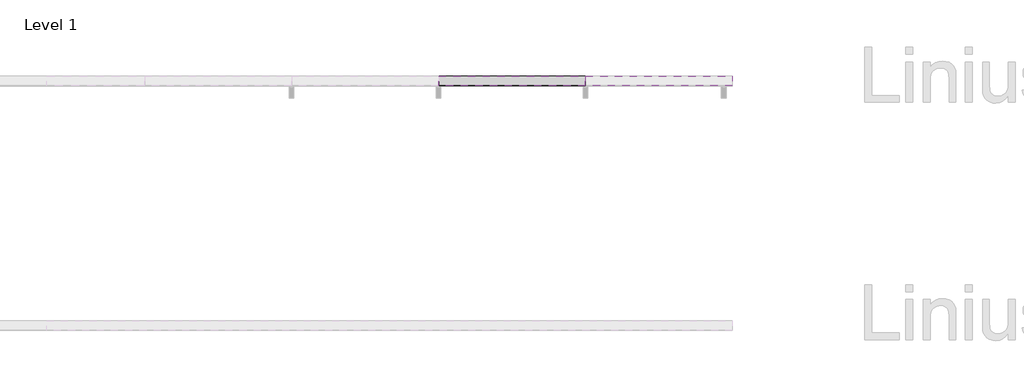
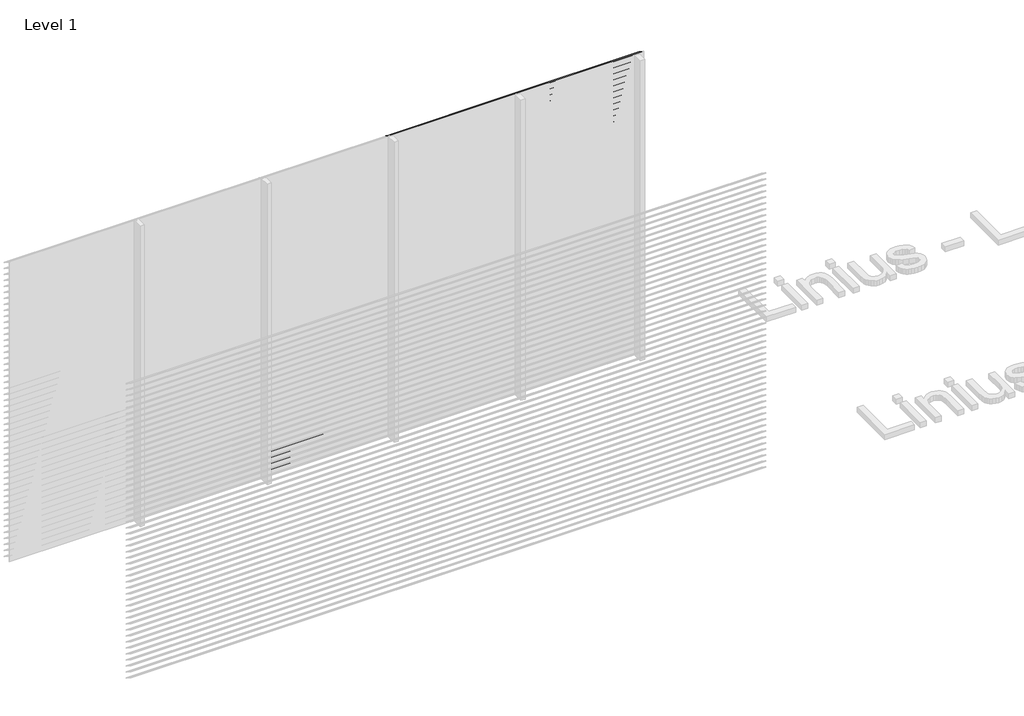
# One storey, part 28 of 153: 84 proxies.
"""IFC4 building model written with IfcOpenShell, lengths in millimetres."""

from ifc_helpers import new_model, si_unit, frame, origin, place, context, project, spatial, polyline, outline, extrude, element, save

model = new_model("IFC4")

# Units and contexts
model_context = context("Model", 3, world=origin())
ifc_project = project(units=[si_unit("LENGTHUNIT", "METRE", prefix="MILLI")], contexts=[model_context])

# Site, building, storey
site = spatial("IfcSite", under=ifc_project)
building = spatial("IfcBuilding", under=site)
storey = spatial("IfcBuildingStorey", under=building, Name="Level 1", Elevation=0.0)

# Proxies
placement = place(None, origin())
element("IfcBuildingElementProxy", 1, Name="Wall Sweeps", at=placement, inside=storey, context=model_context, shape_type="SweptSolid", body=[
    extrude(outline(polyline([(29061.0540136, 186.0), (29061.0540136, 180.0), (29059.8040136, 180.7216933), (29059.8040136, 185.2538091), (28983.0540136, 233.9915103), (28983.0540136, 240.0), (28984.3040136, 240.0), (28984.3040136, 234.7377012), (29061.0540136, 186.0)])), frame((2866.6208097, 0.0, 0.0), z_axis=(1.0, 0.0, 0.0), x_axis=(0.0, 1.0, 0.0)), (0.0, 0.0, 1.0), 1199.9999999),
])
element("IfcBuildingElementProxy", 2, Name="Wall Sweeps", at=placement, inside=storey, context=model_context, shape_type="SweptSolid", body=[
    extrude(outline(polyline([(29061.0540136, 126.0), (29061.0540136, 120.0), (29059.8040136, 120.7216933), (29059.8040136, 125.2538091), (28983.0540136, 173.9915103), (28983.0540136, 180.0), (28984.3040136, 180.0), (28984.3040136, 174.7377012), (29061.0540136, 126.0)])), frame((2866.6208097, 0.0, 0.0), z_axis=(1.0, 0.0, 0.0), x_axis=(0.0, 1.0, 0.0)), (0.0, 0.0, 1.0), 1199.9999999),
])
element("IfcBuildingElementProxy", 3, Name="Wall Sweeps", at=placement, inside=storey, context=model_context, shape_type="SweptSolid", body=[
    extrude(outline(polyline([(29061.0540136, 66.0), (29061.0540136, 60.0), (29059.8040136, 60.7216933), (29059.8040136, 65.2538091), (28983.0540136, 113.9915103), (28983.0540136, 120.0), (28984.3040136, 120.0), (28984.3040136, 114.7377012), (29061.0540136, 66.0)])), frame((2866.6208097, 0.0, 0.0), z_axis=(1.0, 0.0, 0.0), x_axis=(0.0, 1.0, 0.0)), (0.0, 0.0, 1.0), 1199.9999999),
])
element("IfcBuildingElementProxy", 4, Name="Wall Sweeps", at=placement, inside=storey, context=model_context, shape_type="SweptSolid", body=[
    extrude(outline(polyline([(29061.0540136, 6.0), (29061.0540136, 0.0), (29059.8040136, 0.7216933), (29059.8040136, 5.2538091), (28983.0540136, 53.9915103), (28983.0540136, 60.0), (28984.3040136, 60.0), (28984.3040136, 54.7377012), (29061.0540136, 6.0)])), frame((2866.6208097, 0.0, 0.0), z_axis=(1.0, 0.0, 0.0), x_axis=(0.0, 1.0, 0.0)), (0.0, 0.0, 1.0), 1199.9999999),
])
element("IfcBuildingElementProxy", 5, Name="Wall Sweeps", at=placement, inside=storey, context=model_context, shape_type="SweptSolid", body=[
    extrude(outline(polyline([(29061.0540136, 2946.0), (29061.0540136, 2940.0), (29059.8040136, 2940.7216933), (29059.8040136, 2945.2538091), (28983.0540136, 2993.9915103), (28983.0540136, 3000.0), (28984.3040136, 3000.0), (28984.3040136, 2994.7377012), (29061.0540136, 2946.0)])), frame((4066.6208096, 0.0, 0.0), z_axis=(1.0, 0.0, 0.0), x_axis=(0.0, 1.0, 0.0)), (0.0, 0.0, 1.0), 1199.9999999),
])
element("IfcBuildingElementProxy", 6, Name="Wall Sweeps", at=placement, inside=storey, context=model_context, shape_type="SweptSolid", body=[
    extrude(outline(polyline([(29061.0540136, 2886.0), (29061.0540136, 2880.0), (29059.8040136, 2880.7216933), (29059.8040136, 2885.2538091), (28983.0540136, 2933.9915103), (28983.0540136, 2940.0), (28984.3040136, 2940.0), (28984.3040136, 2934.7377012), (29061.0540136, 2886.0)])), frame((4066.6208096, 0.0, 0.0), z_axis=(1.0, 0.0, 0.0), x_axis=(0.0, 1.0, 0.0)), (0.0, 0.0, 1.0), 1199.9999999),
])
element("IfcBuildingElementProxy", 7, Name="Wall Sweeps", at=placement, inside=storey, context=model_context, shape_type="SweptSolid", body=[
    extrude(outline(polyline([(29061.0540136, 2826.0), (29061.0540136, 2820.0), (29059.8040136, 2820.7216933), (29059.8040136, 2825.2538091), (28983.0540136, 2873.9915103), (28983.0540136, 2880.0), (28984.3040136, 2880.0), (28984.3040136, 2874.7377012), (29061.0540136, 2826.0)])), frame((4066.6208096, 0.0, 0.0), z_axis=(1.0, 0.0, 0.0), x_axis=(0.0, 1.0, 0.0)), (0.0, 0.0, 1.0), 1199.9999999),
])
element("IfcBuildingElementProxy", 8, Name="Wall Sweeps", at=placement, inside=storey, context=model_context, shape_type="SweptSolid", body=[
    extrude(outline(polyline([(29061.0540136, 2766.0), (29061.0540136, 2760.0), (29059.8040136, 2760.7216933), (29059.8040136, 2765.2538091), (28983.0540136, 2813.9915103), (28983.0540136, 2820.0), (28984.3040136, 2820.0), (28984.3040136, 2814.7377012), (29061.0540136, 2766.0)])), frame((4066.6208096, 0.0, 0.0), z_axis=(1.0, 0.0, 0.0), x_axis=(0.0, 1.0, 0.0)), (0.0, 0.0, 1.0), 1199.9999999),
])
element("IfcBuildingElementProxy", 9, Name="Wall Sweeps", at=placement, inside=storey, context=model_context, shape_type="SweptSolid", body=[
    extrude(outline(polyline([(29061.0540136, 2706.0), (29061.0540136, 2700.0), (29059.8040136, 2700.7216933), (29059.8040136, 2705.2538091), (28983.0540136, 2753.9915103), (28983.0540136, 2760.0), (28984.3040136, 2760.0), (28984.3040136, 2754.7377012), (29061.0540136, 2706.0)])), frame((4066.6208096, 0.0, 0.0), z_axis=(1.0, 0.0, 0.0), x_axis=(0.0, 1.0, 0.0)), (0.0, 0.0, 1.0), 1199.9999999),
])
element("IfcBuildingElementProxy", 10, Name="Wall Sweeps", at=placement, inside=storey, context=model_context, shape_type="SweptSolid", body=[
    extrude(outline(polyline([(29061.0540136, 2646.0), (29061.0540136, 2640.0), (29059.8040136, 2640.7216933), (29059.8040136, 2645.2538091), (28983.0540136, 2693.9915103), (28983.0540136, 2700.0), (28984.3040136, 2700.0), (28984.3040136, 2694.7377012), (29061.0540136, 2646.0)])), frame((4066.6208096, 0.0, 0.0), z_axis=(1.0, 0.0, 0.0), x_axis=(0.0, 1.0, 0.0)), (0.0, 0.0, 1.0), 1199.9999999),
])
element("IfcBuildingElementProxy", 11, Name="Wall Sweeps", at=placement, inside=storey, context=model_context, shape_type="SweptSolid", body=[
    extrude(outline(polyline([(29061.0540136, 2586.0), (29061.0540136, 2580.0), (29059.8040136, 2580.7216933), (29059.8040136, 2585.2538091), (28983.0540136, 2633.9915103), (28983.0540136, 2640.0), (28984.3040136, 2640.0), (28984.3040136, 2634.7377012), (29061.0540136, 2586.0)])), frame((4066.6208096, 0.0, 0.0), z_axis=(1.0, 0.0, 0.0), x_axis=(0.0, 1.0, 0.0)), (0.0, 0.0, 1.0), 1199.9999999),
])
element("IfcBuildingElementProxy", 12, Name="Wall Sweeps", at=placement, inside=storey, context=model_context, shape_type="SweptSolid", body=[
    extrude(outline(polyline([(29061.0540136, 2526.0), (29061.0540136, 2520.0), (29059.8040136, 2520.7216933), (29059.8040136, 2525.2538091), (28983.0540136, 2573.9915103), (28983.0540136, 2580.0), (28984.3040136, 2580.0), (28984.3040136, 2574.7377012), (29061.0540136, 2526.0)])), frame((4066.6208096, 0.0, 0.0), z_axis=(1.0, 0.0, 0.0), x_axis=(0.0, 1.0, 0.0)), (0.0, 0.0, 1.0), 1199.9999999),
])
element("IfcBuildingElementProxy", 13, Name="Wall Sweeps", at=placement, inside=storey, context=model_context, shape_type="SweptSolid", body=[
    extrude(outline(polyline([(29061.0540136, 2466.0), (29061.0540136, 2460.0), (29059.8040136, 2460.7216933), (29059.8040136, 2465.2538091), (28983.0540136, 2513.9915103), (28983.0540136, 2520.0), (28984.3040136, 2520.0), (28984.3040136, 2514.7377012), (29061.0540136, 2466.0)])), frame((4066.6208096, 0.0, 0.0), z_axis=(1.0, 0.0, 0.0), x_axis=(0.0, 1.0, 0.0)), (0.0, 0.0, 1.0), 1199.9999999),
])
element("IfcBuildingElementProxy", 14, Name="Wall Sweeps", at=placement, inside=storey, context=model_context, shape_type="SweptSolid", body=[
    extrude(outline(polyline([(29061.0540136, 2406.0), (29061.0540136, 2400.0), (29059.8040136, 2400.7216933), (29059.8040136, 2405.2538091), (28983.0540136, 2453.9915103), (28983.0540136, 2460.0), (28984.3040136, 2460.0), (28984.3040136, 2454.7377012), (29061.0540136, 2406.0)])), frame((4066.6208096, 0.0, 0.0), z_axis=(1.0, 0.0, 0.0), x_axis=(0.0, 1.0, 0.0)), (0.0, 0.0, 1.0), 1199.9999999),
])
element("IfcBuildingElementProxy", 15, Name="Wall Sweeps", at=placement, inside=storey, context=model_context, shape_type="SweptSolid", body=[
    extrude(outline(polyline([(29061.0540136, 2346.0), (29061.0540136, 2340.0), (29059.8040136, 2340.7216933), (29059.8040136, 2345.2538091), (28983.0540136, 2393.9915103), (28983.0540136, 2400.0), (28984.3040136, 2400.0), (28984.3040136, 2394.7377012), (29061.0540136, 2346.0)])), frame((4066.6208096, 0.0, 0.0), z_axis=(1.0, 0.0, 0.0), x_axis=(0.0, 1.0, 0.0)), (0.0, 0.0, 1.0), 1199.9999999),
])
element("IfcBuildingElementProxy", 16, Name="Wall Sweeps", at=placement, inside=storey, context=model_context, shape_type="SweptSolid", body=[
    extrude(outline(polyline([(29061.0540136, 2286.0), (29061.0540136, 2280.0), (29059.8040136, 2280.7216933), (29059.8040136, 2285.2538091), (28983.0540136, 2333.9915103), (28983.0540136, 2340.0), (28984.3040136, 2340.0), (28984.3040136, 2334.7377012), (29061.0540136, 2286.0)])), frame((4066.6208096, 0.0, 0.0), z_axis=(1.0, 0.0, 0.0), x_axis=(0.0, 1.0, 0.0)), (0.0, 0.0, 1.0), 1199.9999999),
])
element("IfcBuildingElementProxy", 17, Name="Wall Sweeps", at=placement, inside=storey, context=model_context, shape_type="SweptSolid", body=[
    extrude(outline(polyline([(29061.0540136, 2226.0), (29061.0540136, 2220.0), (29059.8040136, 2220.7216933), (29059.8040136, 2225.2538091), (28983.0540136, 2273.9915103), (28983.0540136, 2280.0), (28984.3040136, 2280.0), (28984.3040136, 2274.7377012), (29061.0540136, 2226.0)])), frame((4066.6208096, 0.0, 0.0), z_axis=(1.0, 0.0, 0.0), x_axis=(0.0, 1.0, 0.0)), (0.0, 0.0, 1.0), 1199.9999999),
])
element("IfcBuildingElementProxy", 18, Name="Wall Sweeps", at=placement, inside=storey, context=model_context, shape_type="SweptSolid", body=[
    extrude(outline(polyline([(29061.0540136, 2166.0), (29061.0540136, 2160.0), (29059.8040136, 2160.7216933), (29059.8040136, 2165.2538091), (28983.0540136, 2213.9915103), (28983.0540136, 2220.0), (28984.3040136, 2220.0), (28984.3040136, 2214.7377012), (29061.0540136, 2166.0)])), frame((4066.6208096, 0.0, 0.0), z_axis=(1.0, 0.0, 0.0), x_axis=(0.0, 1.0, 0.0)), (0.0, 0.0, 1.0), 1199.9999999),
])
element("IfcBuildingElementProxy", 19, Name="Wall Sweeps", at=placement, inside=storey, context=model_context, shape_type="SweptSolid", body=[
    extrude(outline(polyline([(29061.0540136, 2106.0), (29061.0540136, 2100.0), (29059.8040136, 2100.7216933), (29059.8040136, 2105.2538091), (28983.0540136, 2153.9915103), (28983.0540136, 2160.0), (28984.3040136, 2160.0), (28984.3040136, 2154.7377012), (29061.0540136, 2106.0)])), frame((4066.6208096, 0.0, 0.0), z_axis=(1.0, 0.0, 0.0), x_axis=(0.0, 1.0, 0.0)), (0.0, 0.0, 1.0), 1199.9999999),
])
element("IfcBuildingElementProxy", 20, Name="Wall Sweeps", at=placement, inside=storey, context=model_context, shape_type="SweptSolid", body=[
    extrude(outline(polyline([(29061.0540136, 2046.0), (29061.0540136, 2040.0), (29059.8040136, 2040.7216933), (29059.8040136, 2045.2538091), (28983.0540136, 2093.9915103), (28983.0540136, 2100.0), (28984.3040136, 2100.0), (28984.3040136, 2094.7377012), (29061.0540136, 2046.0)])), frame((4066.6208096, 0.0, 0.0), z_axis=(1.0, 0.0, 0.0), x_axis=(0.0, 1.0, 0.0)), (0.0, 0.0, 1.0), 1199.9999999),
])
element("IfcBuildingElementProxy", 21, Name="Wall Sweeps", at=placement, inside=storey, context=model_context, shape_type="SweptSolid", body=[
    extrude(outline(polyline([(29061.0540136, 1986.0), (29061.0540136, 1980.0), (29059.8040136, 1980.7216933), (29059.8040136, 1985.2538091), (28983.0540136, 2033.9915103), (28983.0540136, 2040.0), (28984.3040136, 2040.0), (28984.3040136, 2034.7377012), (29061.0540136, 1986.0)])), frame((4066.6208096, 0.0, 0.0), z_axis=(1.0, 0.0, 0.0), x_axis=(0.0, 1.0, 0.0)), (0.0, 0.0, 1.0), 1199.9999999),
])
element("IfcBuildingElementProxy", 22, Name="Wall Sweeps", at=placement, inside=storey, context=model_context, shape_type="SweptSolid", body=[
    extrude(outline(polyline([(29061.0540136, 1926.0), (29061.0540136, 1920.0), (29059.8040136, 1920.7216933), (29059.8040136, 1925.2538091), (28983.0540136, 1973.9915103), (28983.0540136, 1980.0), (28984.3040136, 1980.0), (28984.3040136, 1974.7377012), (29061.0540136, 1926.0)])), frame((4066.6208096, 0.0, 0.0), z_axis=(1.0, 0.0, 0.0), x_axis=(0.0, 1.0, 0.0)), (0.0, 0.0, 1.0), 1199.9999999),
])
element("IfcBuildingElementProxy", 23, Name="Wall Sweeps", at=placement, inside=storey, context=model_context, shape_type="SweptSolid", body=[
    extrude(outline(polyline([(29061.0540136, 1866.0), (29061.0540136, 1860.0), (29059.8040136, 1860.7216933), (29059.8040136, 1865.2538091), (28983.0540136, 1913.9915103), (28983.0540136, 1920.0), (28984.3040136, 1920.0), (28984.3040136, 1914.7377012), (29061.0540136, 1866.0)])), frame((4066.6208096, 0.0, 0.0), z_axis=(1.0, 0.0, 0.0), x_axis=(0.0, 1.0, 0.0)), (0.0, 0.0, 1.0), 1199.9999999),
])
element("IfcBuildingElementProxy", 24, Name="Wall Sweeps", at=placement, inside=storey, context=model_context, shape_type="SweptSolid", body=[
    extrude(outline(polyline([(29061.0540136, 1806.0), (29061.0540136, 1800.0), (29059.8040136, 1800.7216933), (29059.8040136, 1805.2538091), (28983.0540136, 1853.9915103), (28983.0540136, 1860.0), (28984.3040136, 1860.0), (28984.3040136, 1854.7377012), (29061.0540136, 1806.0)])), frame((4066.6208096, 0.0, 0.0), z_axis=(1.0, 0.0, 0.0), x_axis=(0.0, 1.0, 0.0)), (0.0, 0.0, 1.0), 1199.9999999),
])
element("IfcBuildingElementProxy", 25, Name="Wall Sweeps", at=placement, inside=storey, context=model_context, shape_type="SweptSolid", body=[
    extrude(outline(polyline([(29061.0540136, 1746.0), (29061.0540136, 1740.0), (29059.8040136, 1740.7216933), (29059.8040136, 1745.2538091), (28983.0540136, 1793.9915103), (28983.0540136, 1800.0), (28984.3040136, 1800.0), (28984.3040136, 1794.7377012), (29061.0540136, 1746.0)])), frame((4066.6208096, 0.0, 0.0), z_axis=(1.0, 0.0, 0.0), x_axis=(0.0, 1.0, 0.0)), (0.0, 0.0, 1.0), 1199.9999999),
])
element("IfcBuildingElementProxy", 26, Name="Wall Sweeps", at=placement, inside=storey, context=model_context, shape_type="SweptSolid", body=[
    extrude(outline(polyline([(29061.0540136, 1686.0), (29061.0540136, 1680.0), (29059.8040136, 1680.7216933), (29059.8040136, 1685.2538091), (28983.0540136, 1733.9915103), (28983.0540136, 1740.0), (28984.3040136, 1740.0), (28984.3040136, 1734.7377012), (29061.0540136, 1686.0)])), frame((4066.6208096, 0.0, 0.0), z_axis=(1.0, 0.0, 0.0), x_axis=(0.0, 1.0, 0.0)), (0.0, 0.0, 1.0), 1199.9999999),
])
element("IfcBuildingElementProxy", 27, Name="Wall Sweeps", at=placement, inside=storey, context=model_context, shape_type="SweptSolid", body=[
    extrude(outline(polyline([(29061.0540136, 1626.0), (29061.0540136, 1620.0), (29059.8040136, 1620.7216933), (29059.8040136, 1625.2538091), (28983.0540136, 1673.9915103), (28983.0540136, 1680.0), (28984.3040136, 1680.0), (28984.3040136, 1674.7377012), (29061.0540136, 1626.0)])), frame((4066.6208096, 0.0, 0.0), z_axis=(1.0, 0.0, 0.0), x_axis=(0.0, 1.0, 0.0)), (0.0, 0.0, 1.0), 1199.9999999),
])
element("IfcBuildingElementProxy", 28, Name="Wall Sweeps", at=placement, inside=storey, context=model_context, shape_type="SweptSolid", body=[
    extrude(outline(polyline([(29061.0540136, 1566.0), (29061.0540136, 1560.0), (29059.8040136, 1560.7216933), (29059.8040136, 1565.2538091), (28983.0540136, 1613.9915103), (28983.0540136, 1620.0), (28984.3040136, 1620.0), (28984.3040136, 1614.7377012), (29061.0540136, 1566.0)])), frame((4066.6208096, 0.0, 0.0), z_axis=(1.0, 0.0, 0.0), x_axis=(0.0, 1.0, 0.0)), (0.0, 0.0, 1.0), 1199.9999999),
])
element("IfcBuildingElementProxy", 29, Name="Wall Sweeps", at=placement, inside=storey, context=model_context, shape_type="SweptSolid", body=[
    extrude(outline(polyline([(29061.0540136, 1506.0), (29061.0540136, 1500.0), (29059.8040136, 1500.7216933), (29059.8040136, 1505.2538091), (28983.0540136, 1553.9915103), (28983.0540136, 1560.0), (28984.3040136, 1560.0), (28984.3040136, 1554.7377012), (29061.0540136, 1506.0)])), frame((4066.6208096, 0.0, 0.0), z_axis=(1.0, 0.0, 0.0), x_axis=(0.0, 1.0, 0.0)), (0.0, 0.0, 1.0), 1199.9999999),
])
element("IfcBuildingElementProxy", 30, Name="Wall Sweeps", at=placement, inside=storey, context=model_context, shape_type="SweptSolid", body=[
    extrude(outline(polyline([(29061.0540136, 1446.0), (29061.0540136, 1440.0), (29059.8040136, 1440.7216933), (29059.8040136, 1445.2538091), (28983.0540136, 1493.9915103), (28983.0540136, 1500.0), (28984.3040136, 1500.0), (28984.3040136, 1494.7377012), (29061.0540136, 1446.0)])), frame((4066.6208096, 0.0, 0.0), z_axis=(1.0, 0.0, 0.0), x_axis=(0.0, 1.0, 0.0)), (0.0, 0.0, 1.0), 1199.9999999),
])
element("IfcBuildingElementProxy", 31, Name="Wall Sweeps", at=placement, inside=storey, context=model_context, shape_type="SweptSolid", body=[
    extrude(outline(polyline([(29061.0540136, 1386.0), (29061.0540136, 1380.0), (29059.8040136, 1380.7216933), (29059.8040136, 1385.2538091), (28983.0540136, 1433.9915103), (28983.0540136, 1440.0), (28984.3040136, 1440.0), (28984.3040136, 1434.7377012), (29061.0540136, 1386.0)])), frame((4066.6208096, 0.0, 0.0), z_axis=(1.0, 0.0, 0.0), x_axis=(0.0, 1.0, 0.0)), (0.0, 0.0, 1.0), 1199.9999999),
])
element("IfcBuildingElementProxy", 32, Name="Wall Sweeps", at=placement, inside=storey, context=model_context, shape_type="SweptSolid", body=[
    extrude(outline(polyline([(29061.0540136, 1326.0), (29061.0540136, 1320.0), (29059.8040136, 1320.7216933), (29059.8040136, 1325.2538091), (28983.0540136, 1373.9915103), (28983.0540136, 1380.0), (28984.3040136, 1380.0), (28984.3040136, 1374.7377012), (29061.0540136, 1326.0)])), frame((4066.6208096, 0.0, 0.0), z_axis=(1.0, 0.0, 0.0), x_axis=(0.0, 1.0, 0.0)), (0.0, 0.0, 1.0), 1199.9999999),
])
element("IfcBuildingElementProxy", 33, Name="Wall Sweeps", at=placement, inside=storey, context=model_context, shape_type="SweptSolid", body=[
    extrude(outline(polyline([(29061.0540136, 1266.0), (29061.0540136, 1260.0), (29059.8040136, 1260.7216933), (29059.8040136, 1265.2538091), (28983.0540136, 1313.9915103), (28983.0540136, 1320.0), (28984.3040136, 1320.0), (28984.3040136, 1314.7377012), (29061.0540136, 1266.0)])), frame((4066.6208096, 0.0, 0.0), z_axis=(1.0, 0.0, 0.0), x_axis=(0.0, 1.0, 0.0)), (0.0, 0.0, 1.0), 1199.9999999),
])
element("IfcBuildingElementProxy", 34, Name="Wall Sweeps", at=placement, inside=storey, context=model_context, shape_type="SweptSolid", body=[
    extrude(outline(polyline([(29061.0540136, 1206.0), (29061.0540136, 1200.0), (29059.8040136, 1200.7216933), (29059.8040136, 1205.2538091), (28983.0540136, 1253.9915103), (28983.0540136, 1260.0), (28984.3040136, 1260.0), (28984.3040136, 1254.7377012), (29061.0540136, 1206.0)])), frame((4066.6208096, 0.0, 0.0), z_axis=(1.0, 0.0, 0.0), x_axis=(0.0, 1.0, 0.0)), (0.0, 0.0, 1.0), 1199.9999999),
])
element("IfcBuildingElementProxy", 35, Name="Wall Sweeps", at=placement, inside=storey, context=model_context, shape_type="SweptSolid", body=[
    extrude(outline(polyline([(29061.0540136, 1146.0), (29061.0540136, 1140.0), (29059.8040136, 1140.7216933), (29059.8040136, 1145.2538091), (28983.0540136, 1193.9915103), (28983.0540136, 1200.0), (28984.3040136, 1200.0), (28984.3040136, 1194.7377012), (29061.0540136, 1146.0)])), frame((4066.6208096, 0.0, 0.0), z_axis=(1.0, 0.0, 0.0), x_axis=(0.0, 1.0, 0.0)), (0.0, 0.0, 1.0), 1199.9999999),
])
element("IfcBuildingElementProxy", 36, Name="Wall Sweeps", at=placement, inside=storey, context=model_context, shape_type="SweptSolid", body=[
    extrude(outline(polyline([(29061.0540136, 1086.0), (29061.0540136, 1080.0), (29059.8040136, 1080.7216933), (29059.8040136, 1085.2538091), (28983.0540136, 1133.9915103), (28983.0540136, 1140.0), (28984.3040136, 1140.0), (28984.3040136, 1134.7377012), (29061.0540136, 1086.0)])), frame((4066.6208096, 0.0, 0.0), z_axis=(1.0, 0.0, 0.0), x_axis=(0.0, 1.0, 0.0)), (0.0, 0.0, 1.0), 1199.9999999),
])
element("IfcBuildingElementProxy", 37, Name="Wall Sweeps", at=placement, inside=storey, context=model_context, shape_type="SweptSolid", body=[
    extrude(outline(polyline([(29061.0540136, 1026.0), (29061.0540136, 1020.0), (29059.8040136, 1020.7216933), (29059.8040136, 1025.2538091), (28983.0540136, 1073.9915103), (28983.0540136, 1080.0), (28984.3040136, 1080.0), (28984.3040136, 1074.7377012), (29061.0540136, 1026.0)])), frame((4066.6208096, 0.0, 0.0), z_axis=(1.0, 0.0, 0.0), x_axis=(0.0, 1.0, 0.0)), (0.0, 0.0, 1.0), 1199.9999999),
])
element("IfcBuildingElementProxy", 38, Name="Wall Sweeps", at=placement, inside=storey, context=model_context, shape_type="SweptSolid", body=[
    extrude(outline(polyline([(29061.0540136, 966.0), (29061.0540136, 960.0), (29059.8040136, 960.7216933), (29059.8040136, 965.2538091), (28983.0540136, 1013.9915103), (28983.0540136, 1020.0), (28984.3040136, 1020.0), (28984.3040136, 1014.7377012), (29061.0540136, 966.0)])), frame((4066.6208096, 0.0, 0.0), z_axis=(1.0, 0.0, 0.0), x_axis=(0.0, 1.0, 0.0)), (0.0, 0.0, 1.0), 1199.9999999),
])
element("IfcBuildingElementProxy", 39, Name="Wall Sweeps", at=placement, inside=storey, context=model_context, shape_type="SweptSolid", body=[
    extrude(outline(polyline([(29061.0540136, 906.0), (29061.0540136, 900.0), (29059.8040136, 900.7216933), (29059.8040136, 905.2538091), (28983.0540136, 953.9915103), (28983.0540136, 960.0), (28984.3040136, 960.0), (28984.3040136, 954.7377012), (29061.0540136, 906.0)])), frame((4066.6208096, 0.0, 0.0), z_axis=(1.0, 0.0, 0.0), x_axis=(0.0, 1.0, 0.0)), (0.0, 0.0, 1.0), 1199.9999999),
])
element("IfcBuildingElementProxy", 40, Name="Wall Sweeps", at=placement, inside=storey, context=model_context, shape_type="SweptSolid", body=[
    extrude(outline(polyline([(29061.0540136, 846.0), (29061.0540136, 840.0), (29059.8040136, 840.7216933), (29059.8040136, 845.2538091), (28983.0540136, 893.9915103), (28983.0540136, 900.0), (28984.3040136, 900.0), (28984.3040136, 894.7377012), (29061.0540136, 846.0)])), frame((4066.6208096, 0.0, 0.0), z_axis=(1.0, 0.0, 0.0), x_axis=(0.0, 1.0, 0.0)), (0.0, 0.0, 1.0), 1199.9999999),
])
element("IfcBuildingElementProxy", 41, Name="Wall Sweeps", at=placement, inside=storey, context=model_context, shape_type="SweptSolid", body=[
    extrude(outline(polyline([(29061.0540136, 786.0), (29061.0540136, 780.0), (29059.8040136, 780.7216933), (29059.8040136, 785.2538091), (28983.0540136, 833.9915103), (28983.0540136, 840.0), (28984.3040136, 840.0), (28984.3040136, 834.7377012), (29061.0540136, 786.0)])), frame((4066.6208096, 0.0, 0.0), z_axis=(1.0, 0.0, 0.0), x_axis=(0.0, 1.0, 0.0)), (0.0, 0.0, 1.0), 1199.9999999),
])
element("IfcBuildingElementProxy", 42, Name="Wall Sweeps", at=placement, inside=storey, context=model_context, shape_type="SweptSolid", body=[
    extrude(outline(polyline([(29061.0540136, 726.0), (29061.0540136, 720.0), (29059.8040136, 720.7216933), (29059.8040136, 725.2538091), (28983.0540136, 773.9915103), (28983.0540136, 780.0), (28984.3040136, 780.0), (28984.3040136, 774.7377012), (29061.0540136, 726.0)])), frame((4066.6208096, 0.0, 0.0), z_axis=(1.0, 0.0, 0.0), x_axis=(0.0, 1.0, 0.0)), (0.0, 0.0, 1.0), 1199.9999999),
])
element("IfcBuildingElementProxy", 43, Name="Wall Sweeps", at=placement, inside=storey, context=model_context, shape_type="SweptSolid", body=[
    extrude(outline(polyline([(29061.0540136, 666.0), (29061.0540136, 660.0), (29059.8040136, 660.7216933), (29059.8040136, 665.2538091), (28983.0540136, 713.9915103), (28983.0540136, 720.0), (28984.3040136, 720.0), (28984.3040136, 714.7377012), (29061.0540136, 666.0)])), frame((4066.6208096, 0.0, 0.0), z_axis=(1.0, 0.0, 0.0), x_axis=(0.0, 1.0, 0.0)), (0.0, 0.0, 1.0), 1199.9999999),
])
element("IfcBuildingElementProxy", 44, Name="Wall Sweeps", at=placement, inside=storey, context=model_context, shape_type="SweptSolid", body=[
    extrude(outline(polyline([(29061.0540136, 606.0), (29061.0540136, 600.0), (29059.8040136, 600.7216933), (29059.8040136, 605.2538091), (28983.0540136, 653.9915103), (28983.0540136, 660.0), (28984.3040136, 660.0), (28984.3040136, 654.7377012), (29061.0540136, 606.0)])), frame((4066.6208096, 0.0, 0.0), z_axis=(1.0, 0.0, 0.0), x_axis=(0.0, 1.0, 0.0)), (0.0, 0.0, 1.0), 1199.9999999),
])
element("IfcBuildingElementProxy", 45, Name="Wall Sweeps", at=placement, inside=storey, context=model_context, shape_type="SweptSolid", body=[
    extrude(outline(polyline([(29061.0540136, 546.0), (29061.0540136, 540.0), (29059.8040136, 540.7216933), (29059.8040136, 545.2538091), (28983.0540136, 593.9915103), (28983.0540136, 600.0), (28984.3040136, 600.0), (28984.3040136, 594.7377012), (29061.0540136, 546.0)])), frame((4066.6208096, 0.0, 0.0), z_axis=(1.0, 0.0, 0.0), x_axis=(0.0, 1.0, 0.0)), (0.0, 0.0, 1.0), 1199.9999999),
])
element("IfcBuildingElementProxy", 46, Name="Wall Sweeps", at=placement, inside=storey, context=model_context, shape_type="SweptSolid", body=[
    extrude(outline(polyline([(29061.0540136, 486.0), (29061.0540136, 480.0), (29059.8040136, 480.7216933), (29059.8040136, 485.2538091), (28983.0540136, 533.9915103), (28983.0540136, 540.0), (28984.3040136, 540.0), (28984.3040136, 534.7377012), (29061.0540136, 486.0)])), frame((4066.6208096, 0.0, 0.0), z_axis=(1.0, 0.0, 0.0), x_axis=(0.0, 1.0, 0.0)), (0.0, 0.0, 1.0), 1199.9999999),
])
element("IfcBuildingElementProxy", 47, Name="Wall Sweeps", at=placement, inside=storey, context=model_context, shape_type="SweptSolid", body=[
    extrude(outline(polyline([(29061.0540136, 426.0), (29061.0540136, 420.0), (29059.8040136, 420.7216933), (29059.8040136, 425.2538091), (28983.0540136, 473.9915103), (28983.0540136, 480.0), (28984.3040136, 480.0), (28984.3040136, 474.7377012), (29061.0540136, 426.0)])), frame((4066.6208096, 0.0, 0.0), z_axis=(1.0, 0.0, 0.0), x_axis=(0.0, 1.0, 0.0)), (0.0, 0.0, 1.0), 1199.9999999),
])
element("IfcBuildingElementProxy", 48, Name="Wall Sweeps", at=placement, inside=storey, context=model_context, shape_type="SweptSolid", body=[
    extrude(outline(polyline([(29061.0540136, 366.0), (29061.0540136, 360.0), (29059.8040136, 360.7216933), (29059.8040136, 365.2538091), (28983.0540136, 413.9915103), (28983.0540136, 420.0), (28984.3040136, 420.0), (28984.3040136, 414.7377012), (29061.0540136, 366.0)])), frame((4066.6208096, 0.0, 0.0), z_axis=(1.0, 0.0, 0.0), x_axis=(0.0, 1.0, 0.0)), (0.0, 0.0, 1.0), 1199.9999999),
])
element("IfcBuildingElementProxy", 49, Name="Wall Sweeps", at=placement, inside=storey, context=model_context, shape_type="SweptSolid", body=[
    extrude(outline(polyline([(29061.0540136, 306.0), (29061.0540136, 300.0), (29059.8040136, 300.7216933), (29059.8040136, 305.2538091), (28983.0540136, 353.9915103), (28983.0540136, 360.0), (28984.3040136, 360.0), (28984.3040136, 354.7377012), (29061.0540136, 306.0)])), frame((4066.6208096, 0.0, 0.0), z_axis=(1.0, 0.0, 0.0), x_axis=(0.0, 1.0, 0.0)), (0.0, 0.0, 1.0), 1199.9999999),
])
element("IfcBuildingElementProxy", 50, Name="Wall Sweeps", at=placement, inside=storey, context=model_context, shape_type="SweptSolid", body=[
    extrude(outline(polyline([(29061.0540136, 246.0), (29061.0540136, 240.0), (29059.8040136, 240.7216933), (29059.8040136, 245.2538091), (28983.0540136, 293.9915103), (28983.0540136, 300.0), (28984.3040136, 300.0), (28984.3040136, 294.7377012), (29061.0540136, 246.0)])), frame((4066.6208096, 0.0, 0.0), z_axis=(1.0, 0.0, 0.0), x_axis=(0.0, 1.0, 0.0)), (0.0, 0.0, 1.0), 1199.9999999),
])
element("IfcBuildingElementProxy", 51, Name="Wall Sweeps", at=placement, inside=storey, context=model_context, shape_type="SweptSolid", body=[
    extrude(outline(polyline([(29061.0540136, 186.0), (29061.0540136, 180.0), (29059.8040136, 180.7216933), (29059.8040136, 185.2538091), (28983.0540136, 233.9915103), (28983.0540136, 240.0), (28984.3040136, 240.0), (28984.3040136, 234.7377012), (29061.0540136, 186.0)])), frame((4066.6208096, 0.0, 0.0), z_axis=(1.0, 0.0, 0.0), x_axis=(0.0, 1.0, 0.0)), (0.0, 0.0, 1.0), 1199.9999999),
])
element("IfcBuildingElementProxy", 52, Name="Wall Sweeps", at=placement, inside=storey, context=model_context, shape_type="SweptSolid", body=[
    extrude(outline(polyline([(29061.0540136, 126.0), (29061.0540136, 120.0), (29059.8040136, 120.7216933), (29059.8040136, 125.2538091), (28983.0540136, 173.9915103), (28983.0540136, 180.0), (28984.3040136, 180.0), (28984.3040136, 174.7377012), (29061.0540136, 126.0)])), frame((4066.6208096, 0.0, 0.0), z_axis=(1.0, 0.0, 0.0), x_axis=(0.0, 1.0, 0.0)), (0.0, 0.0, 1.0), 1199.9999999),
])
element("IfcBuildingElementProxy", 53, Name="Wall Sweeps", at=placement, inside=storey, context=model_context, shape_type="SweptSolid", body=[
    extrude(outline(polyline([(29061.0540136, 66.0), (29061.0540136, 60.0), (29059.8040136, 60.7216933), (29059.8040136, 65.2538091), (28983.0540136, 113.9915103), (28983.0540136, 120.0), (28984.3040136, 120.0), (28984.3040136, 114.7377012), (29061.0540136, 66.0)])), frame((4066.6208096, 0.0, 0.0), z_axis=(1.0, 0.0, 0.0), x_axis=(0.0, 1.0, 0.0)), (0.0, 0.0, 1.0), 1199.9999999),
])
element("IfcBuildingElementProxy", 54, Name="Wall Sweeps", at=placement, inside=storey, context=model_context, shape_type="SweptSolid", body=[
    extrude(outline(polyline([(29061.0540136, 6.0), (29061.0540136, 0.0), (29059.8040136, 0.7216933), (29059.8040136, 5.2538091), (28983.0540136, 53.9915103), (28983.0540136, 60.0), (28984.3040136, 60.0), (28984.3040136, 54.7377012), (29061.0540136, 6.0)])), frame((4066.6208096, 0.0, 0.0), z_axis=(1.0, 0.0, 0.0), x_axis=(0.0, 1.0, 0.0)), (0.0, 0.0, 1.0), 1199.9999999),
])
element("IfcBuildingElementProxy", 55, Name="Wall Sweeps", at=placement, inside=storey, context=model_context, shape_type="SweptSolid", body=[
    extrude(outline(polyline([(29061.0540136, 2946.0), (29061.0540136, 2940.0), (29059.8040136, 2940.7216933), (29059.8040136, 2945.2538091), (28983.0540136, 2993.9915103), (28983.0540136, 3000.0), (28984.3040136, 3000.0), (28984.3040136, 2994.7377012), (29061.0540136, 2946.0)])), frame((5266.6208095, 0.0, 0.0), z_axis=(1.0, 0.0, 0.0), x_axis=(0.0, 1.0, 0.0)), (0.0, 0.0, 1.0), 1200.0000002),
])
element("IfcBuildingElementProxy", 56, Name="Wall Sweeps", at=placement, inside=storey, context=model_context, shape_type="SweptSolid", body=[
    extrude(outline(polyline([(29061.0540136, 2886.0), (29061.0540136, 2880.0), (29059.8040136, 2880.7216933), (29059.8040136, 2885.2538091), (28983.0540136, 2933.9915103), (28983.0540136, 2940.0), (28984.3040136, 2940.0), (28984.3040136, 2934.7377012), (29061.0540136, 2886.0)])), frame((5266.6208095, 0.0, 0.0), z_axis=(1.0, 0.0, 0.0), x_axis=(0.0, 1.0, 0.0)), (0.0, 0.0, 1.0), 1200.0000002),
])
element("IfcBuildingElementProxy", 57, Name="Wall Sweeps", at=placement, inside=storey, context=model_context, shape_type="SweptSolid", body=[
    extrude(outline(polyline([(29061.0540136, 2826.0), (29061.0540136, 2820.0), (29059.8040136, 2820.7216933), (29059.8040136, 2825.2538091), (28983.0540136, 2873.9915103), (28983.0540136, 2880.0), (28984.3040136, 2880.0), (28984.3040136, 2874.7377012), (29061.0540136, 2826.0)])), frame((5266.6208095, 0.0, 0.0), z_axis=(1.0, 0.0, 0.0), x_axis=(0.0, 1.0, 0.0)), (0.0, 0.0, 1.0), 1200.0000002),
])
element("IfcBuildingElementProxy", 58, Name="Wall Sweeps", at=placement, inside=storey, context=model_context, shape_type="SweptSolid", body=[
    extrude(outline(polyline([(29061.0540136, 2766.0), (29061.0540136, 2760.0), (29059.8040136, 2760.7216933), (29059.8040136, 2765.2538091), (28983.0540136, 2813.9915103), (28983.0540136, 2820.0), (28984.3040136, 2820.0), (28984.3040136, 2814.7377012), (29061.0540136, 2766.0)])), frame((5266.6208095, 0.0, 0.0), z_axis=(1.0, 0.0, 0.0), x_axis=(0.0, 1.0, 0.0)), (0.0, 0.0, 1.0), 1200.0000002),
])
element("IfcBuildingElementProxy", 59, Name="Wall Sweeps", at=placement, inside=storey, context=model_context, shape_type="SweptSolid", body=[
    extrude(outline(polyline([(29061.0540136, 2706.0), (29061.0540136, 2700.0), (29059.8040136, 2700.7216933), (29059.8040136, 2705.2538091), (28983.0540136, 2753.9915103), (28983.0540136, 2760.0), (28984.3040136, 2760.0), (28984.3040136, 2754.7377012), (29061.0540136, 2706.0)])), frame((5266.6208095, 0.0, 0.0), z_axis=(1.0, 0.0, 0.0), x_axis=(0.0, 1.0, 0.0)), (0.0, 0.0, 1.0), 1200.0000002),
])
element("IfcBuildingElementProxy", 60, Name="Wall Sweeps", at=placement, inside=storey, context=model_context, shape_type="SweptSolid", body=[
    extrude(outline(polyline([(29061.0540136, 2646.0), (29061.0540136, 2640.0), (29059.8040136, 2640.7216933), (29059.8040136, 2645.2538091), (28983.0540136, 2693.9915103), (28983.0540136, 2700.0), (28984.3040136, 2700.0), (28984.3040136, 2694.7377012), (29061.0540136, 2646.0)])), frame((5266.6208095, 0.0, 0.0), z_axis=(1.0, 0.0, 0.0), x_axis=(0.0, 1.0, 0.0)), (0.0, 0.0, 1.0), 1200.0000002),
])
element("IfcBuildingElementProxy", 61, Name="Wall Sweeps", at=placement, inside=storey, context=model_context, shape_type="SweptSolid", body=[
    extrude(outline(polyline([(29061.0540136, 2586.0), (29061.0540136, 2580.0), (29059.8040136, 2580.7216933), (29059.8040136, 2585.2538091), (28983.0540136, 2633.9915103), (28983.0540136, 2640.0), (28984.3040136, 2640.0), (28984.3040136, 2634.7377012), (29061.0540136, 2586.0)])), frame((5266.6208095, 0.0, 0.0), z_axis=(1.0, 0.0, 0.0), x_axis=(0.0, 1.0, 0.0)), (0.0, 0.0, 1.0), 1200.0000002),
])
element("IfcBuildingElementProxy", 62, Name="Wall Sweeps", at=placement, inside=storey, context=model_context, shape_type="SweptSolid", body=[
    extrude(outline(polyline([(29061.0540136, 2526.0), (29061.0540136, 2520.0), (29059.8040136, 2520.7216933), (29059.8040136, 2525.2538091), (28983.0540136, 2573.9915103), (28983.0540136, 2580.0), (28984.3040136, 2580.0), (28984.3040136, 2574.7377012), (29061.0540136, 2526.0)])), frame((5266.6208095, 0.0, 0.0), z_axis=(1.0, 0.0, 0.0), x_axis=(0.0, 1.0, 0.0)), (0.0, 0.0, 1.0), 1200.0000002),
])
element("IfcBuildingElementProxy", 63, Name="Wall Sweeps", at=placement, inside=storey, context=model_context, shape_type="SweptSolid", body=[
    extrude(outline(polyline([(29061.0540136, 2466.0), (29061.0540136, 2460.0), (29059.8040136, 2460.7216933), (29059.8040136, 2465.2538091), (28983.0540136, 2513.9915103), (28983.0540136, 2520.0), (28984.3040136, 2520.0), (28984.3040136, 2514.7377012), (29061.0540136, 2466.0)])), frame((5266.6208095, 0.0, 0.0), z_axis=(1.0, 0.0, 0.0), x_axis=(0.0, 1.0, 0.0)), (0.0, 0.0, 1.0), 1200.0000002),
])
element("IfcBuildingElementProxy", 64, Name="Wall Sweeps", at=placement, inside=storey, context=model_context, shape_type="SweptSolid", body=[
    extrude(outline(polyline([(29061.0540136, 2406.0), (29061.0540136, 2400.0), (29059.8040136, 2400.7216933), (29059.8040136, 2405.2538091), (28983.0540136, 2453.9915103), (28983.0540136, 2460.0), (28984.3040136, 2460.0), (28984.3040136, 2454.7377012), (29061.0540136, 2406.0)])), frame((5266.6208095, 0.0, 0.0), z_axis=(1.0, 0.0, 0.0), x_axis=(0.0, 1.0, 0.0)), (0.0, 0.0, 1.0), 1200.0000002),
])
element("IfcBuildingElementProxy", 65, Name="Wall Sweeps", at=placement, inside=storey, context=model_context, shape_type="SweptSolid", body=[
    extrude(outline(polyline([(29061.0540136, 2346.0), (29061.0540136, 2340.0), (29059.8040136, 2340.7216933), (29059.8040136, 2345.2538091), (28983.0540136, 2393.9915103), (28983.0540136, 2400.0), (28984.3040136, 2400.0), (28984.3040136, 2394.7377012), (29061.0540136, 2346.0)])), frame((5266.6208095, 0.0, 0.0), z_axis=(1.0, 0.0, 0.0), x_axis=(0.0, 1.0, 0.0)), (0.0, 0.0, 1.0), 1200.0000002),
])
element("IfcBuildingElementProxy", 66, Name="Wall Sweeps", at=placement, inside=storey, context=model_context, shape_type="SweptSolid", body=[
    extrude(outline(polyline([(29061.0540136, 2286.0), (29061.0540136, 2280.0), (29059.8040136, 2280.7216933), (29059.8040136, 2285.2538091), (28983.0540136, 2333.9915103), (28983.0540136, 2340.0), (28984.3040136, 2340.0), (28984.3040136, 2334.7377012), (29061.0540136, 2286.0)])), frame((5266.6208095, 0.0, 0.0), z_axis=(1.0, 0.0, 0.0), x_axis=(0.0, 1.0, 0.0)), (0.0, 0.0, 1.0), 1200.0000002),
])
element("IfcBuildingElementProxy", 67, Name="Wall Sweeps", at=placement, inside=storey, context=model_context, shape_type="SweptSolid", body=[
    extrude(outline(polyline([(29061.0540136, 2226.0), (29061.0540136, 2220.0), (29059.8040136, 2220.7216933), (29059.8040136, 2225.2538091), (28983.0540136, 2273.9915103), (28983.0540136, 2280.0), (28984.3040136, 2280.0), (28984.3040136, 2274.7377012), (29061.0540136, 2226.0)])), frame((5266.6208095, 0.0, 0.0), z_axis=(1.0, 0.0, 0.0), x_axis=(0.0, 1.0, 0.0)), (0.0, 0.0, 1.0), 1200.0000002),
])
element("IfcBuildingElementProxy", 68, Name="Wall Sweeps", at=placement, inside=storey, context=model_context, shape_type="SweptSolid", body=[
    extrude(outline(polyline([(29061.0540136, 2166.0), (29061.0540136, 2160.0), (29059.8040136, 2160.7216933), (29059.8040136, 2165.2538091), (28983.0540136, 2213.9915103), (28983.0540136, 2220.0), (28984.3040136, 2220.0), (28984.3040136, 2214.7377012), (29061.0540136, 2166.0)])), frame((5266.6208095, 0.0, 0.0), z_axis=(1.0, 0.0, 0.0), x_axis=(0.0, 1.0, 0.0)), (0.0, 0.0, 1.0), 1200.0000002),
])
element("IfcBuildingElementProxy", 69, Name="Wall Sweeps", at=placement, inside=storey, context=model_context, shape_type="SweptSolid", body=[
    extrude(outline(polyline([(29061.0540136, 2106.0), (29061.0540136, 2100.0), (29059.8040136, 2100.7216933), (29059.8040136, 2105.2538091), (28983.0540136, 2153.9915103), (28983.0540136, 2160.0), (28984.3040136, 2160.0), (28984.3040136, 2154.7377012), (29061.0540136, 2106.0)])), frame((5266.6208095, 0.0, 0.0), z_axis=(1.0, 0.0, 0.0), x_axis=(0.0, 1.0, 0.0)), (0.0, 0.0, 1.0), 1200.0000002),
])
element("IfcBuildingElementProxy", 70, Name="Wall Sweeps", at=placement, inside=storey, context=model_context, shape_type="SweptSolid", body=[
    extrude(outline(polyline([(29061.0540136, 2046.0), (29061.0540136, 2040.0), (29059.8040136, 2040.7216933), (29059.8040136, 2045.2538091), (28983.0540136, 2093.9915103), (28983.0540136, 2100.0), (28984.3040136, 2100.0), (28984.3040136, 2094.7377012), (29061.0540136, 2046.0)])), frame((5266.6208095, 0.0, 0.0), z_axis=(1.0, 0.0, 0.0), x_axis=(0.0, 1.0, 0.0)), (0.0, 0.0, 1.0), 1200.0000002),
])
element("IfcBuildingElementProxy", 71, Name="Wall Sweeps", at=placement, inside=storey, context=model_context, shape_type="SweptSolid", body=[
    extrude(outline(polyline([(29061.0540136, 1986.0), (29061.0540136, 1980.0), (29059.8040136, 1980.7216933), (29059.8040136, 1985.2538091), (28983.0540136, 2033.9915103), (28983.0540136, 2040.0), (28984.3040136, 2040.0), (28984.3040136, 2034.7377012), (29061.0540136, 1986.0)])), frame((5266.6208095, 0.0, 0.0), z_axis=(1.0, 0.0, 0.0), x_axis=(0.0, 1.0, 0.0)), (0.0, 0.0, 1.0), 1200.0000002),
])
element("IfcBuildingElementProxy", 72, Name="Wall Sweeps", at=placement, inside=storey, context=model_context, shape_type="SweptSolid", body=[
    extrude(outline(polyline([(29061.0540136, 1926.0), (29061.0540136, 1920.0), (29059.8040136, 1920.7216933), (29059.8040136, 1925.2538091), (28983.0540136, 1973.9915103), (28983.0540136, 1980.0), (28984.3040136, 1980.0), (28984.3040136, 1974.7377012), (29061.0540136, 1926.0)])), frame((5266.6208095, 0.0, 0.0), z_axis=(1.0, 0.0, 0.0), x_axis=(0.0, 1.0, 0.0)), (0.0, 0.0, 1.0), 1200.0000002),
])
element("IfcBuildingElementProxy", 73, Name="Wall Sweeps", at=placement, inside=storey, context=model_context, shape_type="SweptSolid", body=[
    extrude(outline(polyline([(29061.0540136, 1866.0), (29061.0540136, 1860.0), (29059.8040136, 1860.7216933), (29059.8040136, 1865.2538091), (28983.0540136, 1913.9915103), (28983.0540136, 1920.0), (28984.3040136, 1920.0), (28984.3040136, 1914.7377012), (29061.0540136, 1866.0)])), frame((5266.6208095, 0.0, 0.0), z_axis=(1.0, 0.0, 0.0), x_axis=(0.0, 1.0, 0.0)), (0.0, 0.0, 1.0), 1200.0000002),
])
element("IfcBuildingElementProxy", 74, Name="Wall Sweeps", at=placement, inside=storey, context=model_context, shape_type="SweptSolid", body=[
    extrude(outline(polyline([(29061.0540136, 1806.0), (29061.0540136, 1800.0), (29059.8040136, 1800.7216933), (29059.8040136, 1805.2538091), (28983.0540136, 1853.9915103), (28983.0540136, 1860.0), (28984.3040136, 1860.0), (28984.3040136, 1854.7377012), (29061.0540136, 1806.0)])), frame((5266.6208095, 0.0, 0.0), z_axis=(1.0, 0.0, 0.0), x_axis=(0.0, 1.0, 0.0)), (0.0, 0.0, 1.0), 1200.0000002),
])
element("IfcBuildingElementProxy", 75, Name="Wall Sweeps", at=placement, inside=storey, context=model_context, shape_type="SweptSolid", body=[
    extrude(outline(polyline([(29061.0540136, 1746.0), (29061.0540136, 1740.0), (29059.8040136, 1740.7216933), (29059.8040136, 1745.2538091), (28983.0540136, 1793.9915103), (28983.0540136, 1800.0), (28984.3040136, 1800.0), (28984.3040136, 1794.7377012), (29061.0540136, 1746.0)])), frame((5266.6208095, 0.0, 0.0), z_axis=(1.0, 0.0, 0.0), x_axis=(0.0, 1.0, 0.0)), (0.0, 0.0, 1.0), 1200.0000002),
])
element("IfcBuildingElementProxy", 76, Name="Wall Sweeps", at=placement, inside=storey, context=model_context, shape_type="SweptSolid", body=[
    extrude(outline(polyline([(29061.0540136, 1686.0), (29061.0540136, 1680.0), (29059.8040136, 1680.7216933), (29059.8040136, 1685.2538091), (28983.0540136, 1733.9915103), (28983.0540136, 1740.0), (28984.3040136, 1740.0), (28984.3040136, 1734.7377012), (29061.0540136, 1686.0)])), frame((5266.6208095, 0.0, 0.0), z_axis=(1.0, 0.0, 0.0), x_axis=(0.0, 1.0, 0.0)), (0.0, 0.0, 1.0), 1200.0000002),
])
element("IfcBuildingElementProxy", 77, Name="Wall Sweeps", at=placement, inside=storey, context=model_context, shape_type="SweptSolid", body=[
    extrude(outline(polyline([(29061.0540136, 1626.0), (29061.0540136, 1620.0), (29059.8040136, 1620.7216933), (29059.8040136, 1625.2538091), (28983.0540136, 1673.9915103), (28983.0540136, 1680.0), (28984.3040136, 1680.0), (28984.3040136, 1674.7377012), (29061.0540136, 1626.0)])), frame((5266.6208095, 0.0, 0.0), z_axis=(1.0, 0.0, 0.0), x_axis=(0.0, 1.0, 0.0)), (0.0, 0.0, 1.0), 1200.0000002),
])
element("IfcBuildingElementProxy", 78, Name="Wall Sweeps", at=placement, inside=storey, context=model_context, shape_type="SweptSolid", body=[
    extrude(outline(polyline([(29061.0540136, 1566.0), (29061.0540136, 1560.0), (29059.8040136, 1560.7216933), (29059.8040136, 1565.2538091), (28983.0540136, 1613.9915103), (28983.0540136, 1620.0), (28984.3040136, 1620.0), (28984.3040136, 1614.7377012), (29061.0540136, 1566.0)])), frame((5266.6208095, 0.0, 0.0), z_axis=(1.0, 0.0, 0.0), x_axis=(0.0, 1.0, 0.0)), (0.0, 0.0, 1.0), 1200.0000002),
])
element("IfcBuildingElementProxy", 79, Name="Wall Sweeps", at=placement, inside=storey, context=model_context, shape_type="SweptSolid", body=[
    extrude(outline(polyline([(29061.0540136, 1506.0), (29061.0540136, 1500.0), (29059.8040136, 1500.7216933), (29059.8040136, 1505.2538091), (28983.0540136, 1553.9915103), (28983.0540136, 1560.0), (28984.3040136, 1560.0), (28984.3040136, 1554.7377012), (29061.0540136, 1506.0)])), frame((5266.6208095, 0.0, 0.0), z_axis=(1.0, 0.0, 0.0), x_axis=(0.0, 1.0, 0.0)), (0.0, 0.0, 1.0), 1200.0000002),
])
element("IfcBuildingElementProxy", 80, Name="Wall Sweeps", at=placement, inside=storey, context=model_context, shape_type="SweptSolid", body=[
    extrude(outline(polyline([(29061.0540136, 1446.0), (29061.0540136, 1440.0), (29059.8040136, 1440.7216933), (29059.8040136, 1445.2538091), (28983.0540136, 1493.9915103), (28983.0540136, 1500.0), (28984.3040136, 1500.0), (28984.3040136, 1494.7377012), (29061.0540136, 1446.0)])), frame((5266.6208095, 0.0, 0.0), z_axis=(1.0, 0.0, 0.0), x_axis=(0.0, 1.0, 0.0)), (0.0, 0.0, 1.0), 1200.0000002),
])
element("IfcBuildingElementProxy", 81, Name="Wall Sweeps", at=placement, inside=storey, context=model_context, shape_type="SweptSolid", body=[
    extrude(outline(polyline([(29061.0540136, 1386.0), (29061.0540136, 1380.0), (29059.8040136, 1380.7216933), (29059.8040136, 1385.2538091), (28983.0540136, 1433.9915103), (28983.0540136, 1440.0), (28984.3040136, 1440.0), (28984.3040136, 1434.7377012), (29061.0540136, 1386.0)])), frame((5266.6208095, 0.0, 0.0), z_axis=(1.0, 0.0, 0.0), x_axis=(0.0, 1.0, 0.0)), (0.0, 0.0, 1.0), 1200.0000002),
])
element("IfcBuildingElementProxy", 82, Name="Wall Sweeps", at=placement, inside=storey, context=model_context, shape_type="SweptSolid", body=[
    extrude(outline(polyline([(29061.0540136, 1326.0), (29061.0540136, 1320.0), (29059.8040136, 1320.7216933), (29059.8040136, 1325.2538091), (28983.0540136, 1373.9915103), (28983.0540136, 1380.0), (28984.3040136, 1380.0), (28984.3040136, 1374.7377012), (29061.0540136, 1326.0)])), frame((5266.6208095, 0.0, 0.0), z_axis=(1.0, 0.0, 0.0), x_axis=(0.0, 1.0, 0.0)), (0.0, 0.0, 1.0), 1200.0000002),
])
element("IfcBuildingElementProxy", 83, Name="Wall Sweeps", at=placement, inside=storey, context=model_context, shape_type="SweptSolid", body=[
    extrude(outline(polyline([(29061.0540136, 1266.0), (29061.0540136, 1260.0), (29059.8040136, 1260.7216933), (29059.8040136, 1265.2538091), (28983.0540136, 1313.9915103), (28983.0540136, 1320.0), (28984.3040136, 1320.0), (28984.3040136, 1314.7377012), (29061.0540136, 1266.0)])), frame((5266.6208095, 0.0, 0.0), z_axis=(1.0, 0.0, 0.0), x_axis=(0.0, 1.0, 0.0)), (0.0, 0.0, 1.0), 1200.0000002),
])
element("IfcBuildingElementProxy", 84, Name="Wall Sweeps", at=placement, inside=storey, context=model_context, shape_type="SweptSolid", body=[
    extrude(outline(polyline([(29061.0540136, 1206.0), (29061.0540136, 1200.0), (29059.8040136, 1200.7216933), (29059.8040136, 1205.2538091), (28983.0540136, 1253.9915103), (28983.0540136, 1260.0), (28984.3040136, 1260.0), (28984.3040136, 1254.7377012), (29061.0540136, 1206.0)])), frame((5266.6208095, 0.0, 0.0), z_axis=(1.0, 0.0, 0.0), x_axis=(0.0, 1.0, 0.0)), (0.0, 0.0, 1.0), 1200.0000002),
])

save(model, "model.ifc")
